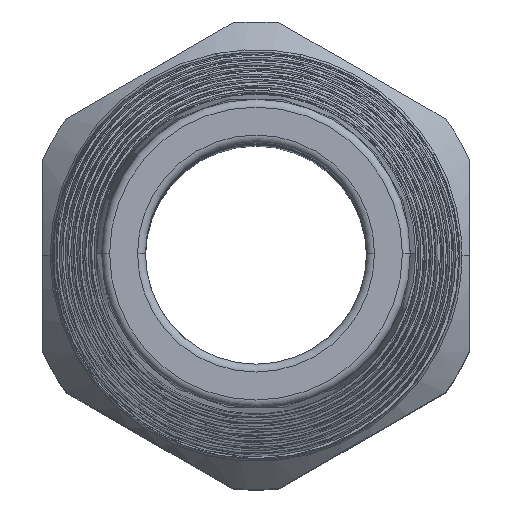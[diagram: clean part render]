
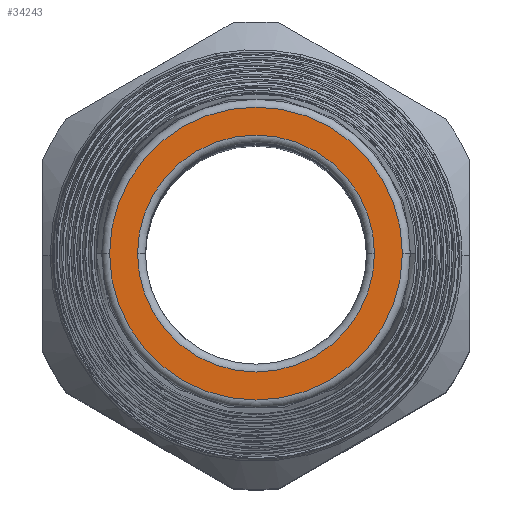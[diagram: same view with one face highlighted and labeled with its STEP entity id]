
A CAD part, top view. The second image highlights one B-rep face of the part: STEP entity #34243.
In plain terms, the highlighted planar face has unit normal (0, 0, 1).
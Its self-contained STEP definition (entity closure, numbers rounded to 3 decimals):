
#8410 = DIRECTION ( 'NONE',  ( 1., 0., 0. ) ) ;
#8419 = DIRECTION ( 'NONE',  ( 0., 0., -1. ) ) ;
#8420 = CARTESIAN_POINT ( 'NONE',  ( 0., 0., 116. ) ) ;
#9987 = AXIS2_PLACEMENT_3D ( 'NONE', #8420, #8419, #8410 ) ;
#9988 = CIRCLE ( 'NONE', #9987, 7.5 ) ;
#10022 = CARTESIAN_POINT ( 'NONE',  ( 9.271, 0., 116. ) ) ;
#10023 = DIRECTION ( 'NONE',  ( 1., 0., 0. ) ) ;
#10024 = DIRECTION ( 'NONE',  ( 0., 0., 1. ) ) ;
#10025 = CARTESIAN_POINT ( 'NONE',  ( 0., 0., 116. ) ) ;
#10026 = AXIS2_PLACEMENT_3D ( 'NONE', #10025, #10024, #10023 ) ;
#10027 = CIRCLE ( 'NONE', #10026, 9.271 ) ;
#10028 = CARTESIAN_POINT ( 'NONE',  ( -9.271, 0., 116. ) ) ;
#10048 = CARTESIAN_POINT ( 'NONE',  ( 7.5, 0., 116. ) ) ;
#10049 = CARTESIAN_POINT ( 'NONE',  ( -7.5, 0., 116. ) ) ;
#34243 = ADVANCED_FACE ( 'NONE', ( #36673, #36671 ), #36662, .T. ) ;
#34244 = EDGE_LOOP ( 'NONE', ( #34245, #34247 ) ) ;
#34245 = ORIENTED_EDGE ( 'NONE', *, *, #34246, .T. ) ;
#34246 = EDGE_CURVE ( 'NONE', #34616, #34615, #36657, .T. ) ;
#34247 = ORIENTED_EDGE ( 'NONE', *, *, #34614, .T. ) ;
#34248 = EDGE_LOOP ( 'NONE', ( #34249, #34250 ) ) ;
#34249 = ORIENTED_EDGE ( 'NONE', *, *, #34627, .T. ) ;
#34250 = ORIENTED_EDGE ( 'NONE', *, *, #34251, .T. ) ;
#34251 = EDGE_CURVE ( 'NONE', #34625, #34628, #36705, .T. ) ;
#34614 = EDGE_CURVE ( 'NONE', #34615, #34616, #9988, .T. ) ;
#34615 = VERTEX_POINT ( 'NONE', #10049 ) ;
#34616 = VERTEX_POINT ( 'NONE', #10048 ) ;
#34625 = VERTEX_POINT ( 'NONE', #10028 ) ;
#34627 = EDGE_CURVE ( 'NONE', #34628, #34625, #10027, .T. ) ;
#34628 = VERTEX_POINT ( 'NONE', #10022 ) ;
#35520 = CARTESIAN_POINT ( 'NONE',  ( 0., 0., 116. ) ) ;
#36392 = DIRECTION ( 'NONE',  ( 0., 0., -1. ) ) ;
#36656 = AXIS2_PLACEMENT_3D ( 'NONE', #35520, #36392, #36706 ) ;
#36657 = CIRCLE ( 'NONE', #36656, 7.5 ) ;
#36658 = DIRECTION ( 'NONE',  ( 1., 0., 0. ) ) ;
#36659 = DIRECTION ( 'NONE',  ( 0., 0., 1. ) ) ;
#36660 = CARTESIAN_POINT ( 'NONE',  ( 0., 0., 116. ) ) ;
#36661 = AXIS2_PLACEMENT_3D ( 'NONE', #36660, #36659, #36658 ) ;
#36662 = PLANE ( 'NONE',  #36661 ) ;
#36671 = FACE_OUTER_BOUND ( 'NONE', #34248, .T. ) ;
#36673 = FACE_BOUND ( 'NONE', #34244, .T. ) ;
#36701 = DIRECTION ( 'NONE',  ( 1., 0., 0. ) ) ;
#36702 = DIRECTION ( 'NONE',  ( 0., 0., 1. ) ) ;
#36703 = CARTESIAN_POINT ( 'NONE',  ( 0., 0., 116. ) ) ;
#36704 = AXIS2_PLACEMENT_3D ( 'NONE', #36703, #36702, #36701 ) ;
#36705 = CIRCLE ( 'NONE', #36704, 9.271 ) ;
#36706 = DIRECTION ( 'NONE',  ( 1., 0., 0. ) ) ;
